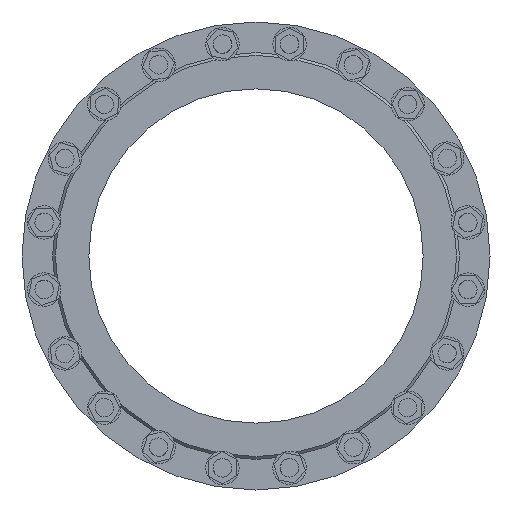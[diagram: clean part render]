
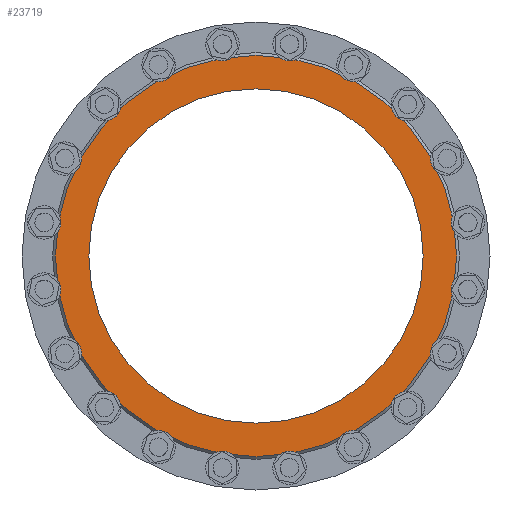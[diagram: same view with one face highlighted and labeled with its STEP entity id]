
A CAD part, left-side view. The second image highlights one B-rep face of the part: STEP entity #23719.
In plain terms, the highlighted planar face has unit normal (-1, 0, 0).
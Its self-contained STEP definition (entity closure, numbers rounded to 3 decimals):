
#1139 = CARTESIAN_POINT ( 'NONE',  ( -70., 0., 0. ) ) ;
#1288 = DIRECTION ( 'NONE',  ( 1., 0., 0. ) ) ;
#2313 = VERTEX_POINT ( 'NONE', #5719 ) ;
#2804 = CARTESIAN_POINT ( 'NONE',  ( -70., 0., 0. ) ) ;
#3089 = AXIS2_PLACEMENT_3D ( 'NONE', #1139, #1288, #8667 ) ;
#4008 = FACE_OUTER_BOUND ( 'NONE', #18295, .T. ) ;
#4097 = EDGE_LOOP ( 'NONE', ( #13866 ) ) ;
#5719 = CARTESIAN_POINT ( 'NONE',  ( -70., 0., 360. ) ) ;
#6200 = DIRECTION ( 'NONE',  ( 0., 0., -1. ) ) ;
#7924 = DIRECTION ( 'NONE',  ( 0., 0., 1. ) ) ;
#8667 = DIRECTION ( 'NONE',  ( 0., 0., -1. ) ) ;
#9014 = PLANE ( 'NONE',  #14896 ) ;
#12365 = DIRECTION ( 'NONE',  ( -1., 0., 0. ) ) ;
#12520 = AXIS2_PLACEMENT_3D ( 'NONE', #2804, #12365, #7924 ) ;
#13601 = CIRCLE ( 'NONE', #3089, 300. ) ;
#13866 = ORIENTED_EDGE ( 'NONE', *, *, #19100, .T. ) ;
#14527 = CIRCLE ( 'NONE', #12520, 360. ) ;
#14896 = AXIS2_PLACEMENT_3D ( 'NONE', #16077, #18118, #6200 ) ;
#15305 = ORIENTED_EDGE ( 'NONE', *, *, #15981, .T. ) ;
#15981 = EDGE_CURVE ( 'NONE', #2313, #2313, #14527, .T. ) ;
#16077 = CARTESIAN_POINT ( 'NONE',  ( -70., 300., 0. ) ) ;
#18118 = DIRECTION ( 'NONE',  ( 1., 0., 0. ) ) ;
#18295 = EDGE_LOOP ( 'NONE', ( #15305 ) ) ;
#18714 = VERTEX_POINT ( 'NONE', #21529 ) ;
#19100 = EDGE_CURVE ( 'NONE', #18714, #18714, #13601, .T. ) ;
#21529 = CARTESIAN_POINT ( 'NONE',  ( -70., 0., -300. ) ) ;
#22987 = FACE_BOUND ( 'NONE', #4097, .T. ) ;
#23719 = ADVANCED_FACE ( 'NONE', ( #22987, #4008 ), #9014, .F. ) ;
